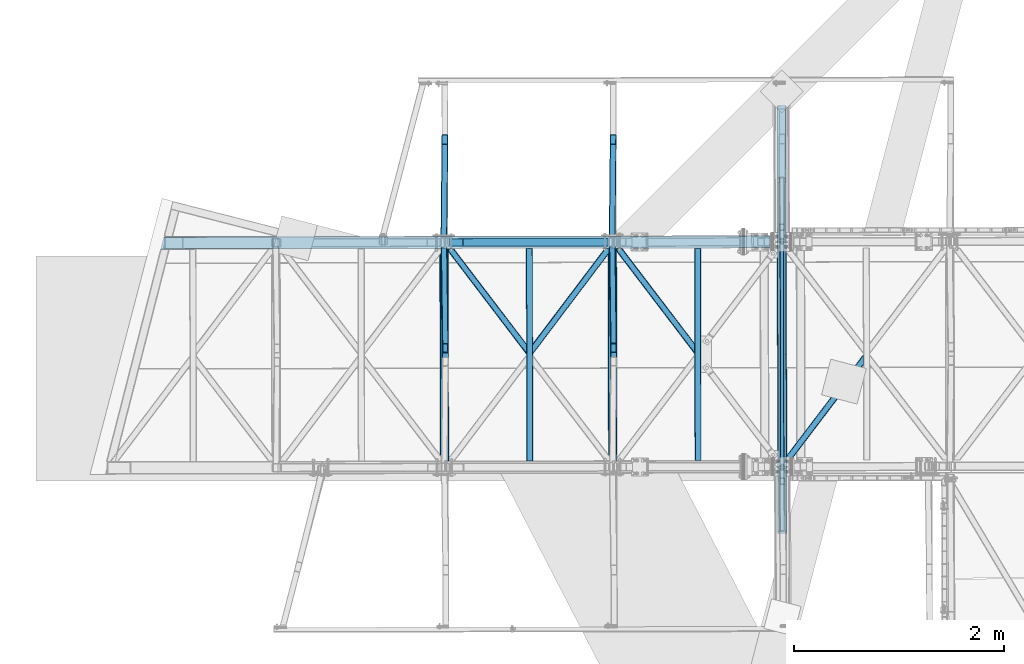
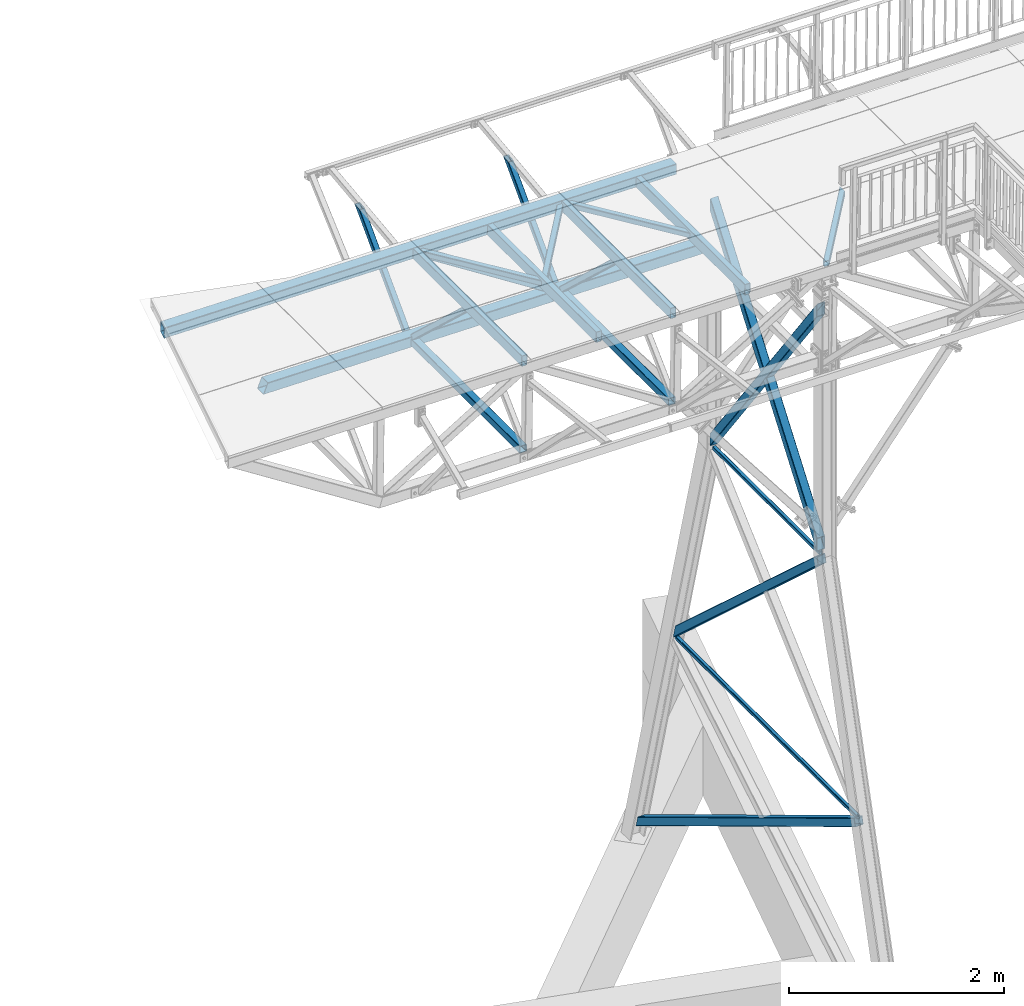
# One storey, part 54 of 169: 23 discrete accessories, 5 elements without a shape of their own.
"""IFC2X3 building model written with IfcOpenShell, lengths in millimetres."""

from ifc_helpers import new_model, si_unit, frame, origin_with_axes, origin_2d_with_axis, place, context, subcontext, project, spatial, rectangle, hollow_rectangle, extrude, boolean, clip, halfspace, material, type_object, element, aggregate, save


model = new_model("IFC2X3")

# Units and contexts
model_context = context("Model", 3, precision=1e-05, world=origin_with_axes())
body_context = subcontext(model_context, "Body", "Model", "MODEL_VIEW")
ifc_project = project(units=[si_unit("LENGTHUNIT", "METRE", prefix="MILLI"), si_unit("AREAUNIT", "SQUARE_METRE"), si_unit("VOLUMEUNIT", "CUBIC_METRE"), si_unit("MASSUNIT", "GRAM", prefix="KILO"), si_unit("TIMEUNIT", "SECOND"), si_unit("PLANEANGLEUNIT", "RADIAN"), si_unit("SOLIDANGLEUNIT", "STERADIAN"), si_unit("THERMODYNAMICTEMPERATUREUNIT", "DEGREE_CELSIUS"), si_unit("LUMINOUSINTENSITYUNIT", "LUMEN")], contexts=[model_context])

# Site, building, storey
site_placement = place(None, origin_with_axes())
site = spatial("IfcSite", under=ifc_project, at=site_placement, Name="Undefined", CompositionType="ELEMENT")
building_placement = place(site_placement, origin_with_axes())
building = spatial("IfcBuilding", under=site, at=building_placement, Name="Undefined", CompositionType="ELEMENT")
storey_placement = place(building_placement, origin_with_axes())
storey = spatial("IfcBuildingStorey", under=building, at=storey_placement, Name="Undefined", CompositionType="ELEMENT", Elevation=0.0)

# Assembly, discrete accessory
assembly_1_placement = place(storey_placement, origin_with_axes())
assembly_1 = element("IfcElementAssembly", 1, at=assembly_1_placement, inside=storey, Name="Steel Assembly", AssemblyPlace="NOTDEFINED", PredefinedType="RIGID_FRAME")
ifc_material = material(Name="STEEL/S355")
discrete_accessory_type = type_object("IfcDiscreteAccessoryType", Name="BEAM")
discrete_accessory_1_placement = place(assembly_1_placement, frame((2903.11554851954, 2309.95210083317, 12904.2277655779), z_axis=(-0.999917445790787, -0.00186469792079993, 0.0127131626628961), x_axis=(0.00767090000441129, 0.707122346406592, 0.70704960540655)))
discrete_accessory_1 = element("IfcDiscreteAccessory", 2, at=discrete_accessory_1_placement, type_object=discrete_accessory_type, material=ifc_material, Name="BEAM", ObjectType="SHS60*3", context=body_context, shape_type="Clipping", body=[
    clip(clip(extrude(hollow_rectangle(XDim=60.0, YDim=60.0, WallThickness=3.0, InnerFilletRadius=3.0, OuterFilletRadius=6.0, at=origin_2d_with_axis()), frame((1369.14752563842, 1.89499235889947e-12, 0.0), z_axis=(-1.0, -3.46944695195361e-18, -1.38777878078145e-17), x_axis=(1.73472347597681e-18, -1.0, 0.0)), (0.0, 0.0, 1.0), 1419.91), halfspace(frame((1329.20790811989, 23.56066933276, 999.999999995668), z_axis=(-0.619044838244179, 0.785355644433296, -1.17904057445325e-10), x_axis=(-0.785355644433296, -0.619044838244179, 2.44605871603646e-10)), True)), halfspace(frame((19.0633294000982, -4.54747350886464e-12, -29.9999999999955), z_axis=(0.707106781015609, 0.707106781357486, 0.0), x_axis=(0.707106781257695, -0.7071067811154, 8.78533101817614e-11)), True)),
])
aggregate(assembly_1, [discrete_accessory_1])

assembly_2_placement = place(storey_placement, origin_with_axes())
assembly_2 = element("IfcElementAssembly", 3, at=assembly_2_placement, inside=storey, Name="Steel Assembly", AssemblyPlace="NOTDEFINED", PredefinedType="RIGID_FRAME")
discrete_accessory_2_placement = place(assembly_2_placement, frame((4504.49868094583, 2312.93844271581, 12883.8674418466), z_axis=(-0.999917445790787, -0.00186469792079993, 0.0127131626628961), x_axis=(0.00767090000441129, 0.707122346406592, 0.70704960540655)))
discrete_accessory_2 = element("IfcDiscreteAccessory", 4, at=discrete_accessory_2_placement, type_object=discrete_accessory_type, material=ifc_material, Name="BEAM", ObjectType="SHS60*3", context=body_context, shape_type="Clipping", body=[
    clip(clip(extrude(hollow_rectangle(XDim=60.0, YDim=60.0, WallThickness=3.0, InnerFilletRadius=3.0, OuterFilletRadius=6.0, at=origin_2d_with_axis()), frame((1369.14752563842, 1.89499235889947e-12, 0.0), z_axis=(-1.0, -3.46944695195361e-18, -1.38777878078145e-17), x_axis=(1.73472347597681e-18, -1.0, 0.0)), (0.0, 0.0, 1.0), 1419.91), halfspace(frame((1329.20790811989, 23.56066933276, 999.999999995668), z_axis=(-0.619044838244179, 0.785355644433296, -1.17904057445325e-10), x_axis=(-0.785355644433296, -0.619044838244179, 2.44605871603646e-10)), True)), halfspace(frame((19.0633294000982, -4.54747350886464e-12, -29.9999999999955), z_axis=(0.707106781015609, 0.707106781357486, 0.0), x_axis=(0.707106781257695, -0.7071067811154, 8.78533101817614e-11)), True)),
])
aggregate(assembly_2, [discrete_accessory_2])

# Assembly, discrete accessories
assembly_3_placement = place(storey_placement, origin_with_axes())
assembly_3 = element("IfcElementAssembly", 5, at=assembly_3_placement, inside=storey, Name="Steel Assembly", AssemblyPlace="NOTDEFINED", PredefinedType="RIGID_FRAME")
discrete_accessory_3_placement = place(assembly_3_placement, frame((4517.48808592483, 2253.44241752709, 13896.7854671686), z_axis=(-0.012713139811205, -2.37511238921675e-05, -0.999919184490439), x_axis=(0.606019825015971, -0.795412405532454, -0.00768614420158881)))
discrete_accessory_3 = element("IfcDiscreteAccessory", 6, at=discrete_accessory_3_placement, type_object=discrete_accessory_type, material=ifc_material, Name="BEAM", ObjectType="K60/4", context=body_context, shape_type="CSG", body=[
    boolean("DIFFERENCE", boolean("DIFFERENCE", boolean("DIFFERENCE", extrude(hollow_rectangle(XDim=60.0, YDim=60.0, WallThickness=4.0, InnerFilletRadius=4.0, OuterFilletRadius=8.0, at=origin_2d_with_axis()), frame((1315.24277788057, 5.30824433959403e-14, -1.81670782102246e-12), z_axis=(-1.0, -3.46944695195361e-18, -1.38777878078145e-17), x_axis=(1.73472347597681e-18, -1.0, 0.0)), (0.0, 0.0, 1.0), 1315.24), extrude(rectangle(XDim=62.0, YDim=122.0, at=origin_2d_with_axis()), frame((-1641.67132428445, -1246.04825629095, -5.23172089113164e-07), z_axis=(0.796541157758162, 0.604584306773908, 3.61473572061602e-11), x_axis=(0.604584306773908, -0.796541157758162, 1.21739011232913e-10)), (0.0, 0.0, 1.0), 4122.0)), extrude(rectangle(XDim=122.0, YDim=122.0, at=origin_2d_with_axis()), frame((1227.78774972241, -1617.61306674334, -0.000112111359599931), z_axis=(-0.604584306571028, 0.79654115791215, 7.30440430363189e-11), x_axis=(0.0, 0.0, 1.0)), (0.0, 0.0, 1.0), 4061.59)), halfspace(frame((1306.33891564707, 23.8962347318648, -1000.00000000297), z_axis=(-0.604584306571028, 0.79654115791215, 7.30440430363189e-11), x_axis=(0.796541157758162, 0.604584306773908, 3.61473572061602e-11)), True)),
])
discrete_accessory_4_placement = place(assembly_3_placement, frame((5322.17043001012, 114.939310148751, 13886.6053977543), z_axis=(0.012713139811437, 2.3750999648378e-05, 0.999919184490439), x_axis=(-0.0018648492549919, 0.999998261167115, -4.2996762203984e-08)))
discrete_accessory_4 = element("IfcDiscreteAccessory", 7, at=discrete_accessory_4_placement, type_object=discrete_accessory_type, material=ifc_material, Name="BEAM", ObjectType="RHS120*60*3", context=body_context, shape_type="Clipping", body=[
    clip(clip(extrude(hollow_rectangle(XDim=60.0, YDim=120.0, WallThickness=3.0, InnerFilletRadius=3.0, OuterFilletRadius=6.0, at=origin_2d_with_axis()), frame((2079.99999999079, 5.70364343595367e-14, -1.83064995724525e-18), z_axis=(-1.0, -3.46944695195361e-18, -1.38777878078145e-17), x_axis=(1.73472347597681e-18, -1.0, 0.0)), (0.0, 0.0, 1.0), 2020.0), halfspace(frame((2079.99999986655, -1.53990526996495e-08, 999.999999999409), z_axis=(-1.0, -3.46944695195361e-18, -1.38777878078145e-17), x_axis=(1.73472347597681e-18, -1.0, 0.0)), True)), halfspace(frame((59.9998947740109, 1.52502366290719e-08, 999.99999999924), z_axis=(1.0, 0.0, 0.0), x_axis=(0.0, 1.0, 0.0)), True)),
])
discrete_accessory_5_placement = place(assembly_3_placement, frame((4504.77494638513, 2253.41866622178, 12896.8662827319), z_axis=(-0.540378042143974, -0.00100776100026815, -0.841421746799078), x_axis=(-0.841420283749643, -0.00156910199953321, 0.540378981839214)))
discrete_accessory_5 = element("IfcDiscreteAccessory", 8, at=discrete_accessory_5_placement, type_object=discrete_accessory_type, material=ifc_material, Name="BEAM", ObjectType="K80/4", context=body_context, shape_type="CSG", body=[
    boolean("DIFFERENCE", boolean("DIFFERENCE", boolean("DIFFERENCE", boolean("DIFFERENCE", extrude(hollow_rectangle(XDim=80.0, YDim=80.0, WallThickness=4.0, InnerFilletRadius=4.0, OuterFilletRadius=8.0, at=origin_2d_with_axis()), frame((1888.08140631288, -3.99591892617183e-16, -2.09619144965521e-13), z_axis=(-1.0, -3.46944695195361e-18, -1.38777878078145e-17), x_axis=(1.73472347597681e-18, -1.0, 0.0)), (0.0, 0.0, 1.0), 1888.08), extrude(rectangle(XDim=122.0, YDim=122.0, at=origin_2d_with_axis()), frame((-1731.22415240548, -1.51453413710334e-06, -1080.99143034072), z_axis=(0.848223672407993, 1.62718886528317e-10, 0.529638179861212), x_axis=(-0.529638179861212, -7.14385769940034e-10, 0.848223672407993)), (0.0, 0.0, 1.0), 4082.0)), extrude(rectangle(XDim=82.0, YDim=82.0, at=origin_2d_with_axis()), frame((1100.05787383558, 1.22998632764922e-06, -1761.75956571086), z_axis=(-0.529638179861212, -7.14385769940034e-10, 0.848223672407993), x_axis=(1.73472347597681e-18, -1.0, 0.0)), (0.0, 0.0, 1.0), 4154.0)), extrude(rectangle(XDim=82.0, YDim=82.0, at=origin_2d_with_axis()), frame((2979.66563475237, 1.49284688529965e-06, -1748.18889350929), z_axis=(-0.529638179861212, -7.14385769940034e-10, 0.848223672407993), x_axis=(1.73472347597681e-18, -1.0, 0.0)), (0.0, 0.0, 1.0), 4122.0)), extrude(rectangle(XDim=122.0, YDim=122.0, at=origin_2d_with_axis()), frame((157.029487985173, -7.52537512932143e-07, -1080.88388656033), z_axis=(0.848223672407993, 1.62718886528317e-10, 0.529638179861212), x_axis=(-0.529638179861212, -7.14385769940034e-10, 0.848223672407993)), (0.0, 0.0, 1.0), 4081.59)),
])
discrete_accessory_6_placement = place(assembly_3_placement, frame((1302.05041040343, 2247.44605793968, 12937.5865120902), z_axis=(0.00186484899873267, -0.999998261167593, 4.28757666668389e-08), x_axis=(0.9999174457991, 0.00186469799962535, -0.0127131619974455)))
discrete_accessory_6 = element("IfcDiscreteAccessory", 9, at=discrete_accessory_6_placement, type_object=discrete_accessory_type, material=ifc_material, Name="BEAM", ObjectType="RHS120*4", context=body_context, shape_type="Clipping", body=[
    clip(clip(extrude(hollow_rectangle(XDim=120.0, YDim=120.0, WallThickness=4.0, InnerFilletRadius=4.0, OuterFilletRadius=8.0, at=origin_2d_with_axis()), frame((4732.72716495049, 1.81077943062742e-12, 4.54275861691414e-13), z_axis=(-1.0, -3.46944695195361e-18, -1.38777878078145e-17), x_axis=(1.73472347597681e-18, -1.0, 0.0)), (0.0, 0.0, 1.0), 4759.82), halfspace(frame((4705.63285266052, 2.83762346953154e-10, -59.9999999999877), z_axis=(-0.999919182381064, -0.0127133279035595, -1.32546567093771e-08), x_axis=(-0.0127133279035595, 0.999919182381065, -3.12727934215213e-10)), True)), halfspace(frame((-24.0981161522, -60.0000000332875, 3.01224645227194e-09), z_axis=(0.927953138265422, -0.372696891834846, 6.20813705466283e-10), x_axis=(0.0, 0.0, 1.0)), True)),
])

assembly_4_placement = place(storey_placement, origin_with_axes())
assembly_4 = element("IfcElementAssembly", 10, at=assembly_4_placement, inside=storey, Name="Steel Assembly", AssemblyPlace="NOTDEFINED", PredefinedType="RIGID_FRAME")
discrete_accessory_7_placement = place(assembly_4_placement, frame((6123.28580286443, 116.43319417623, 10590.4170596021), z_axis=(0.99999826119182, 0.0018648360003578, 1.65999988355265e-07), x_axis=(-0.00111212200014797, 0.596292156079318, 0.802766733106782)))
discrete_accessory_7 = element("IfcDiscreteAccessory", 11, at=discrete_accessory_7_placement, type_object=discrete_accessory_type, material=ifc_material, Name="BEAM", ObjectType="K90/4", context=body_context, shape_type="Clipping", body=[
    clip(clip(extrude(hollow_rectangle(XDim=90.0, YDim=90.0, WallThickness=4.0, InnerFilletRadius=4.0, OuterFilletRadius=8.0, at=origin_2d_with_axis()), frame((3577.25373688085, 1.81898940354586e-12, 4.35569942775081e-16), z_axis=(-1.0, -3.46944695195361e-18, -1.38777878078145e-17), x_axis=(1.73472347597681e-18, -1.0, 0.0)), (0.0, 0.0, 1.0), 3565.67), halfspace(frame((3541.13509369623, 64.2213550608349, 999.999998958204), z_axis=(-0.596293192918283, 0.802766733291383, -1.30021148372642e-08), x_axis=(-0.802766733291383, -0.596293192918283, 9.99683379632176e-09)), True)), halfspace(frame((47.7034509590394, -64.2213222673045, 1000.00000103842), z_axis=(0.596293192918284, -0.802766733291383, 1.30021148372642e-08), x_axis=(0.802766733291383, 0.596293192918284, -9.99683197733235e-09)), True)),
])
discrete_accessory_8_placement = place(assembly_4_placement, frame((6123.28532462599, 116.433191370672, 13471.4172582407), z_axis=(0.99999826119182, 0.0018648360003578, 1.65999988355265e-07), x_axis=(-0.0011118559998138, 0.59629215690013, -0.802766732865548)))
discrete_accessory_8 = element("IfcDiscreteAccessory", 12, at=discrete_accessory_8_placement, type_object=discrete_accessory_type, material=ifc_material, Name="BEAM", ObjectType="K90/4", context=body_context, shape_type="Clipping", body=[
    clip(clip(extrude(hollow_rectangle(XDim=90.0, YDim=90.0, WallThickness=4.0, InnerFilletRadius=4.0, OuterFilletRadius=8.0, at=origin_2d_with_axis()), frame((3577.25373688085, 1.81898940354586e-12, 4.35569942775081e-16), z_axis=(-1.0, -3.46944695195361e-18, -1.38777878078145e-17), x_axis=(1.73472347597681e-18, -1.0, 0.0)), (0.0, 0.0, 1.0), 3565.67), halfspace(frame((3541.13509287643, -64.2213550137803, 999.999998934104), z_axis=(-0.59629319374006, -0.802766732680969, -1.33104897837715e-08), x_axis=(0.80276673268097, -0.59629319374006, -9.58225700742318e-09)), True)), halfspace(frame((47.7034552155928, 64.2213222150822, 1000.00000106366), z_axis=(0.596293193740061, 0.802766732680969, 1.33104894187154e-08), x_axis=(-0.802766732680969, 0.596293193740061, 9.58225791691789e-09)), True)),
])
discrete_accessory_9_placement = place(assembly_4_placement, frame((6117.99979026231, 2951.23029106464, 8010.41809111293), z_axis=(0.99999826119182, 0.0018648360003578, 1.65999988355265e-07), x_axis=(0.00137909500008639, -0.739584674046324, 0.673062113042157)))
discrete_accessory_9 = element("IfcDiscreteAccessory", 13, at=discrete_accessory_9_placement, type_object=discrete_accessory_type, material=ifc_material, Name="BEAM", ObjectType="K90/4", context=body_context, shape_type="Clipping", body=[
    clip(clip(extrude(hollow_rectangle(XDim=90.0, YDim=90.0, WallThickness=4.0, InnerFilletRadius=4.0, OuterFilletRadius=8.0, at=origin_2d_with_axis()), frame((3857.34351062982, -2.14125578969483e-13, -8.12842242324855e-16), z_axis=(-1.0, -3.46944695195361e-18, -1.38777878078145e-17), x_axis=(1.73472347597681e-18, -1.0, 0.0)), (0.0, 0.0, 1.0), 3823.26), halfspace(frame((3761.87744474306, -36.6066086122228, 1000.00000073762), z_axis=(-0.889165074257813, -0.457586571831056, 9.27677336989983e-09), x_axis=(0.45758657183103, -0.889165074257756, 3.52406274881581e-07)), True)), halfspace(frame((43.1291907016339, 67.3785998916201, 999.999998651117), z_axis=(0.539120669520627, 0.842228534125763, -1.7343645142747e-08), x_axis=(-0.842228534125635, 0.539120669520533, -5.62282693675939e-07)), True)),
])
discrete_accessory_10_placement = place(assembly_4_placement, frame((6124.58192305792, -578.367675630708, 8010.4180895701), z_axis=(0.99999826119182, 0.0018648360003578, 1.65999988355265e-07), x_axis=(-0.00159701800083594, 0.856429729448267, -0.516261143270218)))
discrete_accessory_10 = element("IfcDiscreteAccessory", 14, at=discrete_accessory_10_placement, type_object=discrete_accessory_type, material=ifc_material, Name="BEAM", ObjectType="K90/4", context=body_context, shape_type="Clipping", body=[
    clip(clip(extrude(hollow_rectangle(XDim=90.0, YDim=90.0, WallThickness=4.0, InnerFilletRadius=4.0, OuterFilletRadius=8.0, at=origin_2d_with_axis()), frame((4886.21563998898, 1.18073415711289e-12, 5.28600527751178e-16), z_axis=(-1.0, -3.46944695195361e-18, -1.38777878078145e-17), x_axis=(1.73472347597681e-18, -1.0, 0.0)), (0.0, 0.0, 1.0), 4884.7), halfspace(frame((4864.57396879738, -57.6965127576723, 999.999998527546), z_axis=(-0.692720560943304, -0.721206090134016, -1.8381798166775e-08), x_axis=(0.721206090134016, -0.692720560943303, -1.75063323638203e-08)), True)), halfspace(frame((76.8973041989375, 22.0636183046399, 1000.00000055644), z_axis=(0.961216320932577, 0.275795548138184, 6.98203020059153e-09), x_axis=(-0.275795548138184, 0.961216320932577, 2.44351331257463e-08)), True)),
])
discrete_accessory_11_placement = place(assembly_4_placement, frame((6125.15106713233, -883.565068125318, 8010.41808957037), z_axis=(0.0, 0.0, 1.0), x_axis=(-0.0018648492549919, 0.999998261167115, -4.2996762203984e-08)))
discrete_accessory_11 = element("IfcDiscreteAccessory", 15, at=discrete_accessory_11_placement, type_object=discrete_accessory_type, material=ifc_material, Name="BEAM", ObjectType="K40/4", context=body_context, shape_type="Clipping", body=[
    clip(clip(extrude(hollow_rectangle(XDim=40.0, YDim=40.0, WallThickness=4.0, InnerFilletRadius=4.0, OuterFilletRadius=8.0, at=origin_2d_with_axis()), frame((3762.98235939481, -8.15966729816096e-16, -9.09494701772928e-13), z_axis=(-1.0, -3.46944695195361e-18, -1.38777878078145e-17), x_axis=(1.73472347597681e-18, -1.0, 0.0)), (0.0, 0.0, 1.0), 3385.96), halfspace(frame((3497.51546945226, 1.09685061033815e-09, 944.795098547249), z_axis=(-0.965598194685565, -7.52082152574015e-14, -0.260038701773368), x_axis=(1.73472347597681e-18, -1.0, 0.0)), True)), halfspace(frame((642.484496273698, 1.63709046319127e-09, 944.795092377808), z_axis=(0.965598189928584, -7.5098444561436e-14, -0.260038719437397), x_axis=(0.0, 1.0, 0.0)), True)),
])
discrete_accessory_12_placement = place(assembly_4_placement, frame((6123.28580286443, 116.43319417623, 10590.4170596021), z_axis=(0.00104702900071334, 1.9525407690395e-06, 0.999999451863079), x_axis=(-0.0018648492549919, 0.999998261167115, -4.2996762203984e-08)))
discrete_accessory_12 = element("IfcDiscreteAccessory", 16, at=discrete_accessory_12_placement, type_object=discrete_accessory_type, material=ifc_material, Name="BEAM", ObjectType="K40/4", context=body_context, shape_type="Clipping", body=[
    clip(clip(extrude(hollow_rectangle(XDim=40.0, YDim=40.0, WallThickness=4.0, InnerFilletRadius=4.0, OuterFilletRadius=8.0, at=origin_2d_with_axis()), frame((2059.99999892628, 4.46691294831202e-16, 1.81898940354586e-12), z_axis=(-1.0, -3.46944695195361e-18, -1.38777878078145e-17), x_axis=(1.73472347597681e-18, -1.0, 0.0)), (0.0, 0.0, 1.0), 1980.0), halfspace(frame((2059.99999938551, 1.80352799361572e-09, 1000.00000002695), z_axis=(-1.0, -3.46944695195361e-18, -1.38777878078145e-17), x_axis=(1.73472347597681e-18, -1.0, 0.0)), True)), halfspace(frame((79.9999993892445, 1.8007995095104e-09, 999.999999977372), z_axis=(1.0, 0.0, 0.0), x_axis=(0.0, 1.0, 0.0)), True)),
])
aggregate(assembly_4, [discrete_accessory_7, discrete_accessory_8, discrete_accessory_9, discrete_accessory_10, discrete_accessory_11, discrete_accessory_12])

# Discrete accessory
discrete_accessory_13_placement = place(assembly_3_placement, frame((4519.48347484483, 1183.44427811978, 13896.7855134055), z_axis=(-0.00801490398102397, -0.682820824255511, -0.730541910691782), x_axis=(-0.0100430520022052, 0.730583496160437, -0.682749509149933)))
discrete_accessory_13 = element("IfcDiscreteAccessory", 17, at=discrete_accessory_13_placement, type_object=discrete_accessory_type, material=ifc_material, Name="BEAM", ObjectType="K60/4", context=body_context, shape_type="CSG", body=[
    boolean("DIFFERENCE", boolean("DIFFERENCE", boolean("DIFFERENCE", boolean("DIFFERENCE", extrude(hollow_rectangle(XDim=60.0, YDim=60.0, WallThickness=4.0, InnerFilletRadius=4.0, OuterFilletRadius=8.0, at=origin_2d_with_axis()), frame((1464.54771171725, -2.54058529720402e-15, 1.73769067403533e-12), z_axis=(-1.0, -3.46944695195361e-18, -1.38777878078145e-17), x_axis=(1.73472347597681e-18, -1.0, 0.0)), (0.0, 0.0, 1.0), 1409.7), extrude(rectangle(XDim=122.0, YDim=122.0, at=origin_2d_with_axis()), frame((1464.54763377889, 2029.99999998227, -7.71977473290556e-05), z_axis=(1.73472347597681e-18, -1.0, 0.0), x_axis=(0.682804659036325, -5.74226128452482e-10, 0.730600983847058)), (0.0, 0.0, 1.0), 4060.0)), extrude(rectangle(XDim=82.0, YDim=82.0, at=origin_2d_with_axis()), frame((2955.70431769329, 3.22820304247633e-06, -1393.60430822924), z_axis=(-0.730600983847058, -6.40306815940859e-10, 0.682804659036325), x_axis=(0.0, 1.0, 0.0)), (0.0, 0.0, 1.0), 4082.0)), extrude(rectangle(XDim=82.0, YDim=82.0, at=origin_2d_with_axis()), frame((70.9434023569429, 1.26172341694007e-06, -1491.15660917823), z_axis=(0.682804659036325, -5.74226128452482e-10, 0.730600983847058), x_axis=(-0.730600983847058, -6.40306815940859e-10, 0.682804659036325)), (0.0, 0.0, 1.0), 4082.0)), halfspace(frame((-689.632704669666, -3.43825377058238e-08, 726.640717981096), z_axis=(0.682804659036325, -5.74226128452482e-10, 0.730600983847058), x_axis=(0.0, 1.0, 0.0)), True)),
])

discrete_accessory_14_placement = place(assembly_3_placement, frame((2918.10034269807, 1180.45793508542, 13917.1458371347), z_axis=(-0.00801490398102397, -0.682820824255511, -0.730541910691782), x_axis=(-0.0100430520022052, 0.730583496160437, -0.682749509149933)))
discrete_accessory_14 = element("IfcDiscreteAccessory", 18, at=discrete_accessory_14_placement, type_object=discrete_accessory_type, material=ifc_material, Name="BEAM", ObjectType="K60/4", context=body_context, shape_type="CSG", body=[
    boolean("DIFFERENCE", boolean("DIFFERENCE", boolean("DIFFERENCE", boolean("DIFFERENCE", extrude(hollow_rectangle(XDim=60.0, YDim=60.0, WallThickness=4.0, InnerFilletRadius=4.0, OuterFilletRadius=8.0, at=origin_2d_with_axis()), frame((1464.54771171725, -2.54058529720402e-15, 1.73769067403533e-12), z_axis=(-1.0, -3.46944695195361e-18, -1.38777878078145e-17), x_axis=(1.73472347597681e-18, -1.0, 0.0)), (0.0, 0.0, 1.0), 1409.7), extrude(rectangle(XDim=122.0, YDim=122.0, at=origin_2d_with_axis()), frame((1464.54763377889, 2029.99999998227, -7.71977473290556e-05), z_axis=(1.73472347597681e-18, -1.0, 0.0), x_axis=(0.682804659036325, -5.74226128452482e-10, 0.730600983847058)), (0.0, 0.0, 1.0), 4060.0)), extrude(rectangle(XDim=82.0, YDim=82.0, at=origin_2d_with_axis()), frame((2955.70431769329, 3.22820304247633e-06, -1393.60430822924), z_axis=(-0.730600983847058, -6.40306815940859e-10, 0.682804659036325), x_axis=(0.0, 1.0, 0.0)), (0.0, 0.0, 1.0), 4082.0)), extrude(rectangle(XDim=82.0, YDim=82.0, at=origin_2d_with_axis()), frame((70.9434023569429, 1.26172341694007e-06, -1491.15660917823), z_axis=(0.682804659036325, -5.74226128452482e-10, 0.730600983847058), x_axis=(-0.730600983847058, -6.40306815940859e-10, 0.682804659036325)), (0.0, 0.0, 1.0), 4082.0)), halfspace(frame((-689.632704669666, -3.43825377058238e-08, 726.640717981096), z_axis=(0.682804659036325, -5.74226128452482e-10, 0.730600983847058), x_axis=(0.0, 1.0, 0.0)), True)),
])

discrete_accessory_15_placement = place(assembly_3_placement, frame((2907.38259213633, 110.436044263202, 12917.2266988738), z_axis=(0.012713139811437, 2.3750999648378e-05, 0.999919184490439), x_axis=(-0.0018648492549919, 0.999998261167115, -4.2996762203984e-08)))
discrete_accessory_15 = element("IfcDiscreteAccessory", 19, at=discrete_accessory_15_placement, type_object=discrete_accessory_type, material=ifc_material, Name="BEAM", ObjectType="K80/4", context=body_context, shape_type="Clipping", body=[
    clip(clip(extrude(hollow_rectangle(XDim=80.0, YDim=80.0, WallThickness=4.0, InnerFilletRadius=4.0, OuterFilletRadius=8.0, at=origin_2d_with_axis()), frame((2079.99999999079, 5.70364343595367e-14, -1.83064995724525e-18), z_axis=(-1.0, -3.46944695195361e-18, -1.38777878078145e-17), x_axis=(1.73472347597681e-18, -1.0, 0.0)), (0.0, 0.0, 1.0), 2020.0), halfspace(frame((2079.99999986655, -1.53990526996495e-08, 999.999999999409), z_axis=(-1.0, -3.46944695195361e-18, -1.38777878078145e-17), x_axis=(1.73472347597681e-18, -1.0, 0.0)), True)), halfspace(frame((59.9998947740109, 1.52502366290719e-08, 999.99999999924), z_axis=(1.0, 0.0, 0.0), x_axis=(0.0, 1.0, 0.0)), True)),
])

discrete_accessory_16_placement = place(assembly_3_placement, frame((4508.76572428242, 113.422387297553, 12896.866375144), z_axis=(0.012713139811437, 2.3750999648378e-05, 0.999919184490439), x_axis=(-0.0018648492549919, 0.999998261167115, -4.2996762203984e-08)))
discrete_accessory_16 = element("IfcDiscreteAccessory", 20, at=discrete_accessory_16_placement, type_object=discrete_accessory_type, material=ifc_material, Name="BEAM", ObjectType="K80/4", context=body_context, shape_type="Clipping", body=[
    clip(clip(extrude(hollow_rectangle(XDim=80.0, YDim=80.0, WallThickness=4.0, InnerFilletRadius=4.0, OuterFilletRadius=8.0, at=origin_2d_with_axis()), frame((2079.99999999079, 5.70364343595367e-14, -1.83064995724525e-18), z_axis=(-1.0, -3.46944695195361e-18, -1.38777878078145e-17), x_axis=(1.73472347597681e-18, -1.0, 0.0)), (0.0, 0.0, 1.0), 2020.0), halfspace(frame((2079.99999986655, -1.53990526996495e-08, 999.999999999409), z_axis=(-1.0, -3.46944695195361e-18, -1.38777878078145e-17), x_axis=(1.73472347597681e-18, -1.0, 0.0)), True)), halfspace(frame((59.9998947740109, 1.52502366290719e-08, 999.99999999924), z_axis=(1.0, 0.0, 0.0), x_axis=(0.0, 1.0, 0.0)), True)),
])

discrete_accessory_17_placement = place(assembly_3_placement, frame((3718.76393602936, 1196.9510804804, 13906.9656746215), z_axis=(-0.012713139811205, -2.37511238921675e-05, -0.999919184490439), x_axis=(0.603048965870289, 0.797667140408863, -0.00768621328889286)))
discrete_accessory_17 = element("IfcDiscreteAccessory", 21, at=discrete_accessory_17_placement, type_object=discrete_accessory_type, material=ifc_material, Name="BEAM", ObjectType="K60/4", context=body_context, shape_type="CSG", body=[
    boolean("DIFFERENCE", boolean("DIFFERENCE", boolean("DIFFERENCE", extrude(hollow_rectangle(XDim=60.0, YDim=60.0, WallThickness=4.0, InnerFilletRadius=4.0, OuterFilletRadius=8.0, at=origin_2d_with_axis()), frame((1324.47644334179, 4.88419580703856e-14, 0.0), z_axis=(-1.0, -3.46944695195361e-18, -1.38777878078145e-17), x_axis=(1.73472347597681e-18, -1.0, 0.0)), (0.0, 0.0, 1.0), 1315.35), extrude(rectangle(XDim=62.0, YDim=122.0, at=origin_2d_with_axis()), frame((2966.14777387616, -1246.04825596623, -1.63275600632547e-06), z_axis=(-0.79654115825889, 0.604584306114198, 2.79726373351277e-10), x_axis=(0.604584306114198, 0.79654115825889, -3.06618013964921e-10)), (0.0, 0.0, 1.0), 4122.0)), extrude(rectangle(XDim=122.0, YDim=122.0, at=origin_2d_with_axis()), frame((2552.51014726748, 1617.9371159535, -0.00011415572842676), z_axis=(-0.604584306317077, -0.796541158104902, 5.01400825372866e-10), x_axis=(0.0, 0.0, 1.0)), (0.0, 0.0, 1.0), 4062.41)), halfspace(frame((18.1375297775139, 23.8962347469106, -1000.00000000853), z_axis=(0.604584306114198, 0.79654115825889, -3.06618013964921e-10), x_axis=(0.79654115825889, -0.604584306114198, -2.79724190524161e-10)), True)),
])

discrete_accessory_18_placement = place(assembly_3_placement, frame((2916.10495377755, 2250.45607452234, 13917.145791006), z_axis=(-0.012713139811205, -2.37511238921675e-05, -0.999919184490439), x_axis=(0.606019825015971, -0.795412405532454, -0.00768614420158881)))
discrete_accessory_18 = element("IfcDiscreteAccessory", 22, at=discrete_accessory_18_placement, type_object=discrete_accessory_type, material=ifc_material, Name="BEAM", ObjectType="K60/4", context=body_context, shape_type="CSG", body=[
    boolean("DIFFERENCE", boolean("DIFFERENCE", boolean("DIFFERENCE", extrude(hollow_rectangle(XDim=60.0, YDim=60.0, WallThickness=4.0, InnerFilletRadius=4.0, OuterFilletRadius=8.0, at=origin_2d_with_axis()), frame((1315.24277788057, 5.30824433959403e-14, -1.81670782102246e-12), z_axis=(-1.0, -3.46944695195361e-18, -1.38777878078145e-17), x_axis=(1.73472347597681e-18, -1.0, 0.0)), (0.0, 0.0, 1.0), 1315.24), extrude(rectangle(XDim=62.0, YDim=122.0, at=origin_2d_with_axis()), frame((-1641.67132428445, -1246.04825629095, -5.23172089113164e-07), z_axis=(0.796541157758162, 0.604584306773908, 3.61473572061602e-11), x_axis=(0.604584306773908, -0.796541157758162, 1.21739011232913e-10)), (0.0, 0.0, 1.0), 4122.0)), extrude(rectangle(XDim=122.0, YDim=122.0, at=origin_2d_with_axis()), frame((1227.78774972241, -1617.61306674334, -0.000112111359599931), z_axis=(-0.604584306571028, 0.79654115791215, 7.30440430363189e-11), x_axis=(0.0, 0.0, 1.0)), (0.0, 0.0, 1.0), 4061.59)), halfspace(frame((1306.33891564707, 23.8962347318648, -1000.00000000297), z_axis=(-0.604584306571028, 0.79654115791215, 7.30440430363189e-11), x_axis=(0.796541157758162, 0.604584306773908, 3.61473572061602e-11)), True)),
])

discrete_accessory_19_placement = place(assembly_3_placement, frame((2920.09573168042, 110.459795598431, 13917.1458833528), z_axis=(0.012713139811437, 2.3750999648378e-05, 0.999919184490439), x_axis=(-0.0018648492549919, 0.999998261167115, -4.2996762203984e-08)))
discrete_accessory_19 = element("IfcDiscreteAccessory", 23, at=discrete_accessory_19_placement, type_object=discrete_accessory_type, material=ifc_material, Name="BEAM", ObjectType="RHS120*60*3", context=body_context, shape_type="Clipping", body=[
    clip(clip(extrude(hollow_rectangle(XDim=60.0, YDim=120.0, WallThickness=3.0, InnerFilletRadius=3.0, OuterFilletRadius=6.0, at=origin_2d_with_axis()), frame((2079.99999999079, 5.70364343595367e-14, -1.83064995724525e-18), z_axis=(-1.0, -3.46944695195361e-18, -1.38777878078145e-17), x_axis=(1.73472347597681e-18, -1.0, 0.0)), (0.0, 0.0, 1.0), 2020.0), halfspace(frame((2079.99999986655, -1.53990526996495e-08, 999.999999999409), z_axis=(-1.0, -3.46944695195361e-18, -1.38777878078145e-17), x_axis=(1.73472347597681e-18, -1.0, 0.0)), True)), halfspace(frame((59.9998947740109, 1.52502366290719e-08, 999.99999999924), z_axis=(1.0, 0.0, 0.0), x_axis=(0.0, 1.0, 0.0)), True)),
])

discrete_accessory_20_placement = place(assembly_3_placement, frame((3720.78729786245, 111.952967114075, 13906.9657214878), z_axis=(0.012713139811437, 2.3750999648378e-05, 0.999919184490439), x_axis=(-0.0018648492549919, 0.999998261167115, -4.2996762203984e-08)))
discrete_accessory_20 = element("IfcDiscreteAccessory", 24, at=discrete_accessory_20_placement, type_object=discrete_accessory_type, material=ifc_material, Name="BEAM", ObjectType="RHS120*60*3", context=body_context, shape_type="Clipping", body=[
    clip(clip(extrude(hollow_rectangle(XDim=60.0, YDim=120.0, WallThickness=3.0, InnerFilletRadius=3.0, OuterFilletRadius=6.0, at=origin_2d_with_axis()), frame((2079.99999999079, 5.70364343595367e-14, -1.83064995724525e-18), z_axis=(-1.0, -3.46944695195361e-18, -1.38777878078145e-17), x_axis=(1.73472347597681e-18, -1.0, 0.0)), (0.0, 0.0, 1.0), 2020.0), halfspace(frame((2079.99999986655, -1.53990526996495e-08, 999.999999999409), z_axis=(-1.0, -3.46944695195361e-18, -1.38777878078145e-17), x_axis=(1.73472347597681e-18, -1.0, 0.0)), True)), halfspace(frame((59.9998947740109, 1.52502366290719e-08, 999.99999999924), z_axis=(1.0, 0.0, 0.0), x_axis=(0.0, 1.0, 0.0)), True)),
])

# Assembly, discrete accessory
assembly_5_placement = place(storey_placement, origin_with_axes())
assembly_5 = element("IfcElementAssembly", 25, at=assembly_5_placement, inside=storey, Name="Steel Assembly", AssemblyPlace="NOTDEFINED", PredefinedType="RIGID_FRAME")
discrete_accessory_21_placement = place(assembly_5_placement, frame((6122.8289239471, 116.432419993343, 13876.4256565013), z_axis=(0.796064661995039, -0.605127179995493, -0.0101069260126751), x_axis=(0.605078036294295, 0.796128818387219, -0.00771197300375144)))
discrete_accessory_21 = element("IfcDiscreteAccessory", 26, at=discrete_accessory_21_placement, type_object=discrete_accessory_type, material=ifc_material, Name="BEAM", ObjectType="K60/4", context=body_context, shape_type="CSG", body=[
    boolean("DIFFERENCE", boolean("DIFFERENCE", boolean("DIFFERENCE", extrude(hollow_rectangle(XDim=60.0, YDim=60.0, WallThickness=4.0, InnerFilletRadius=4.0, OuterFilletRadius=8.0, at=origin_2d_with_axis()), frame((1317.88045895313, 1.14307908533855e-15, -1.87685778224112e-12), z_axis=(-1.0, -3.46944695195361e-18, -1.38777878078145e-17), x_axis=(1.73472347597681e-18, -1.0, 0.0)), (0.0, 0.0, 1.0), 1317.88), extrude(rectangle(XDim=122.0, YDim=122.0, at=origin_2d_with_axis()), frame((1232.02617983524, 0.000108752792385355, 1614.64314702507), z_axis=(-0.606610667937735, 2.83045446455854e-10, -0.794999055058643), x_axis=(1.73472347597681e-18, -1.0, 0.0)), (0.0, 0.0, 1.0), 4062.0)), extrude(rectangle(XDim=62.0, YDim=122.0, at=origin_2d_with_axis()), frame((1638.49296551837, -1.93246750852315e-06, -1250.22451956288), z_axis=(-0.794999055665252, -4.2238609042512e-08, 0.606610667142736), x_axis=(0.606610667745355, -4.65838344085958e-10, 0.794999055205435)), (0.0, 0.0, 1.0), 4122.0)), halfspace(frame((513.848229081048, 1.26783561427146e-08, 582.760696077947), z_axis=(-0.606610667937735, 2.83045446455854e-10, -0.794999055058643), x_axis=(1.73472347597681e-18, -1.0, 0.0)), True)),
])
aggregate(assembly_5, [discrete_accessory_21])

# Discrete accessory
discrete_accessory_22_placement = place(assembly_3_placement, frame((4521.47886382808, 113.446138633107, 13896.7855596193), z_axis=(0.012713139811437, 2.3750999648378e-05, 0.999919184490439), x_axis=(-0.0018648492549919, 0.999998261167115, -4.2996762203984e-08)))
discrete_accessory_22 = element("IfcDiscreteAccessory", 27, at=discrete_accessory_22_placement, type_object=discrete_accessory_type, material=ifc_material, Name="BEAM", ObjectType="RHS120*60*3", context=body_context, shape_type="Clipping", body=[
    clip(clip(extrude(hollow_rectangle(XDim=60.0, YDim=120.0, WallThickness=3.0, InnerFilletRadius=3.0, OuterFilletRadius=6.0, at=origin_2d_with_axis()), frame((2079.99999999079, 5.70364343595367e-14, -1.83064995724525e-18), z_axis=(-1.0, -3.46944695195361e-18, -1.38777878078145e-17), x_axis=(1.73472347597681e-18, -1.0, 0.0)), (0.0, 0.0, 1.0), 2020.0), halfspace(frame((2079.99999986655, -1.53990526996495e-08, 999.999999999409), z_axis=(-1.0, -3.46944695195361e-18, -1.38777878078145e-17), x_axis=(1.73472347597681e-18, -1.0, 0.0)), True)), halfspace(frame((59.9998947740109, 1.52502366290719e-08, 999.99999999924), z_axis=(1.0, 0.0, 0.0), x_axis=(0.0, 1.0, 0.0)), True)),
])

discrete_accessory_23_placement = place(assembly_3_placement, frame((134.332469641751, 2245.26847964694, 13952.5139471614), z_axis=(0.00186484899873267, -0.999998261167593, 4.28757666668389e-08), x_axis=(0.9999174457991, 0.00186469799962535, -0.0127131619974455)))
discrete_accessory_23 = element("IfcDiscreteAccessory", 28, at=discrete_accessory_23_placement, type_object=discrete_accessory_type, material=ifc_material, Name="BEAM", ObjectType="RHS120*4", context=body_context, shape_type="Clipping", body=[
    clip(clip(extrude(hollow_rectangle(XDim=120.0, YDim=120.0, WallThickness=4.0, InnerFilletRadius=4.0, OuterFilletRadius=8.0, at=origin_2d_with_axis()), frame((5592.53127552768, -9.70149529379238e-15, 4.55299377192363e-13), z_axis=(-1.0, -3.46944695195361e-18, -1.38777878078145e-17), x_axis=(1.73472347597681e-18, -1.0, 0.0)), (0.0, 0.0, 1.0), 5592.53), halfspace(frame((104.143833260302, 59.9999999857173, -60.0000000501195), z_axis=(-0.968414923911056, 2.19610681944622e-10, -0.249344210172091), x_axis=(-0.249344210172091, 2.31048033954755e-11, 0.968414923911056)), False)), halfspace(frame((5592.53127551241, -4.91127138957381e-11, 59.9999999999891), z_axis=(-1.0, -3.46944695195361e-18, -1.38777878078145e-17), x_axis=(1.73472347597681e-18, -1.0, 0.0)), True)),
])

aggregate(assembly_3, [discrete_accessory_3, discrete_accessory_4, discrete_accessory_5, discrete_accessory_6, discrete_accessory_13, discrete_accessory_14, discrete_accessory_15, discrete_accessory_16, discrete_accessory_17, discrete_accessory_18, discrete_accessory_19, discrete_accessory_20, discrete_accessory_22, discrete_accessory_23])

save(model, "model.ifc")
